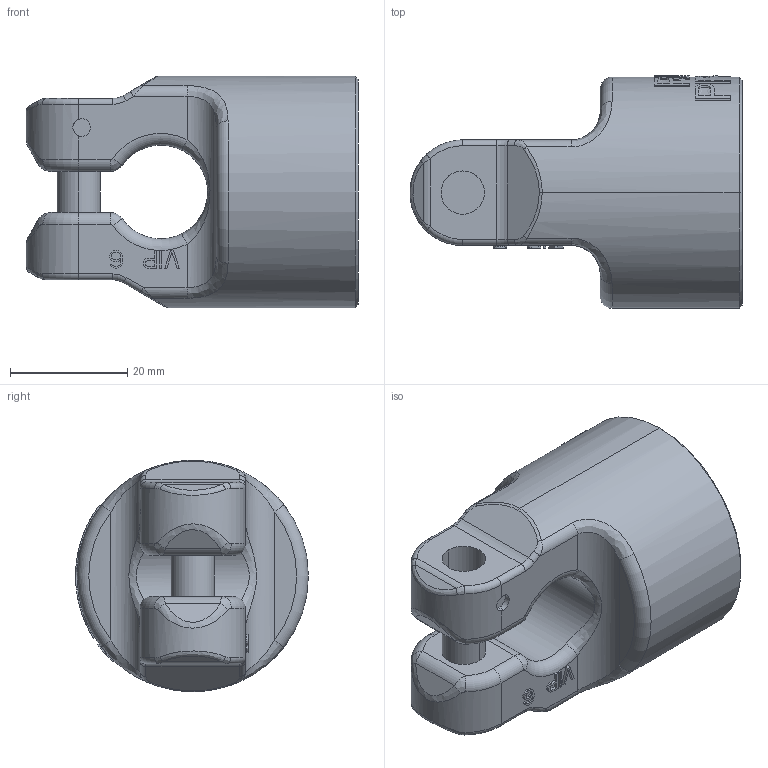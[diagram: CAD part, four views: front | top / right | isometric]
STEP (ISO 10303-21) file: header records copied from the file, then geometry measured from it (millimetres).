
FILE_DESCRIPTION((''),'2;1');
FILE_NAME('001-M31452-P-50_ASM','2018-04-26T',('Anja.Joas'),(''),'PRO/ENGINEER BY PARAMETRIC TECHNOLOGY CORPORATION, 2011490','PRO/ENGINEER BY PARAMETRIC TECHNOLOGY CORPORATION, 2011490','');
FILE_SCHEMA(('CONFIG_CONTROL_DESIGN'));
Length unit declared in the file: millimetre
Products named in the file (2): 001-M31452-P-20_AF0; 001-M31452-P-50_ASM
Assembly tree (1 placements, depth 2):
  001-M31452-P-50_ASM
    001-M31452-P-20_AF0
Bounding box: 56.7 x 39.75 x 39.5 mm (x, y, z)
Volume: 42906.3 mm3; surface area: 8971.4 mm2
Topology: 1 solids, 1 shells, 427 faces, 1146 edges, 742 vertices
Faces by surface type: plane 322, cylinder 55, bspline 30, torus 18, cone 2
Entity records: 14608 total; most frequent: CARTESIAN_POINT 4354, ORIENTED_EDGE 2292, DIRECTION 1880, EDGE_CURVE 1146, VERTEX_POINT 742, VECTOR 642, LINE 642, AXIS2_PLACEMENT_3D 619
